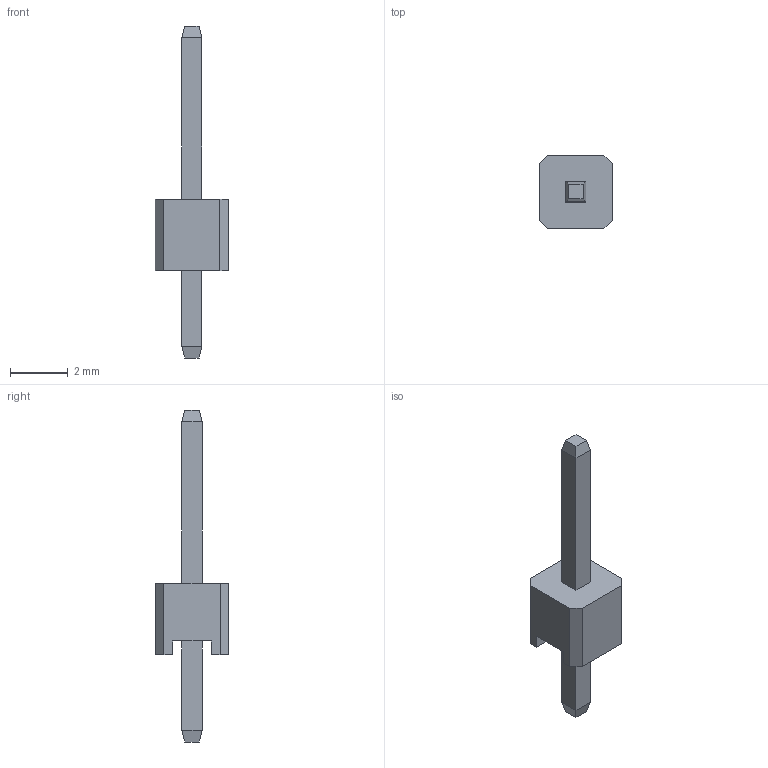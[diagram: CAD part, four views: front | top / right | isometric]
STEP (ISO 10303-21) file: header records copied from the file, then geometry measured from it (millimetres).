
FILE_DESCRIPTION(/* description */ ('STEP AP242 Edition 2','CAx-IF Rec.Pracs.---Representation and Presentation of Product Manufacturing Information (PMI)---4.0---2014-10-13','CAx-IF Rec.Pracs.---3D Tessellated Geometry---0.4---2014-09-14','2;1','CAx-IF Rec.Pracs.---User Defined Attributes---1.5---2016-08-15'),/* implementation_level */ '2;1');
FILE_NAME(/* name */ 'Assembly 1 - HDR-TH_3P-P2.54-V-M-1~HDR-M-2.54_1x3~nxQB (2)',/* time_stamp */ '2026-04-02T09:55:14Z',/* author */ (''),/* organization */ (''),/* preprocessor_version */ 'ST-DEVELOPER v20',/* originating_system */ 'ONSHAPE BY PTC INC, 1.212',/* authorisation */ ' ');
FILE_SCHEMA (('AP242_MANAGED_MODEL_BASED_3D_ENGINEERING_MIM_LF { 1 0 10303 442 3 1 4 }'));
Length unit declared in the file: metre
Products named in the file (1): HDR-TH_3P-P2.54-V-M-1~HDR-M-2.54_1x3~nxQB
Bounding box: 2.55 x 2.54 x 11.5 mm (x, y, z)
Volume: 18.4 mm3; surface area: 63 mm2
Topology: 1 solids, 1 shells, 313 faces, 841 edges, 558 vertices
Faces by surface type: plane 203, cylinder 95, bspline 11, sphere 4
Entity records: 12598 total; most frequent: CARTESIAN_POINT 2586, ORIENTED_EDGE 1682, DIRECTION 1531, EDGE_CURVE 841, VERTEX_POINT 558, LINE 529, VECTOR 529, AXIS2_PLACEMENT_3D 501
